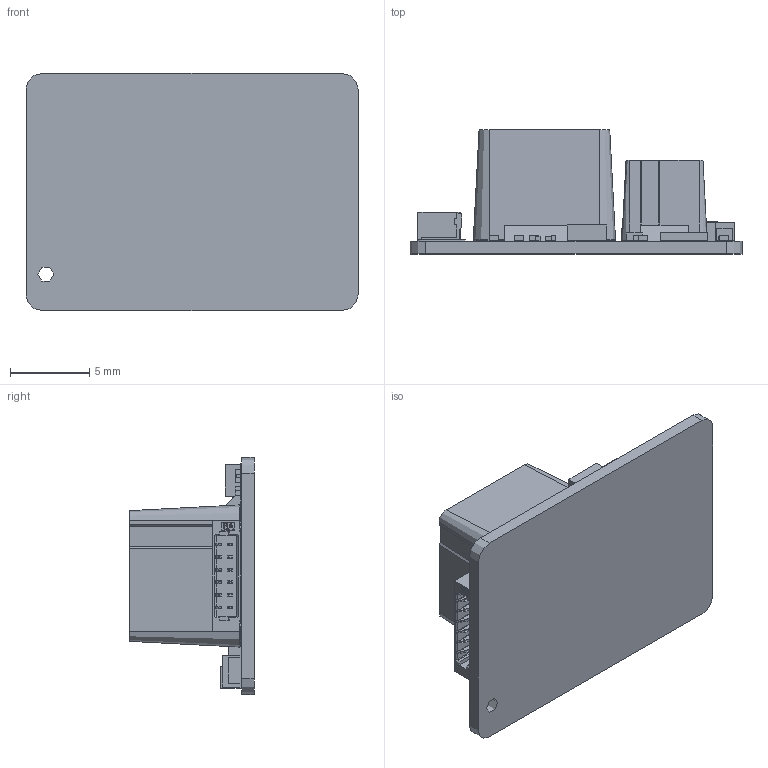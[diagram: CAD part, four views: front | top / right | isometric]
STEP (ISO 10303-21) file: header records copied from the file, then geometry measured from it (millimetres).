
FILE_DESCRIPTION(/* description */ (''),/* implementation_level */ '2;1');
FILE_NAME(/* name */ 'SDAM',/* time_stamp */ '2025-01-07T09:02:18+08:00',/* author */ (''),/* organization */ (''),/* preprocessor_version */ 'ST-DEVELOPER v19.2',/* originating_system */ 'Rhino 8.5',/* authorisation */ '');
FILE_SCHEMA (('CONFIG_CONTROL_DESIGN'));
Length unit declared in the file: millimetre
Products named in the file (63): Document; A; 图块 02; HX-M0012A_20230701; TX-HX-M0012A-SPEC_20230701; HX-F0012B-SPEC_20230925; 图块 12; RX-HX-F0012B-V1-20230925; DT011B_V1-F-3-936; DESIGNROOTMODEL; SUBMODEL-R0201_1901968038_PART_; SUBMODEL-NOMODELFORPART_R0201_1; PLACEMENTOUTLINE-412; SUBMODEL-C0402_154205460_PART_C; SUBMODEL-NOMODELFORPART_C0402_1; PLACEMENTOUTLINE-504; SUBMODEL-DSN1006_839817178_PART; SUBMODEL-NOMODELFORPART_DSN1006; PLACEMENTOUTLINE-552; SUBMODEL-R0603_2273621581_PART_; SUBMODEL-NOMODELFORPART_R0603_2; PLACEMENTOUTLINE-574; SUBMODEL-C0603_1266250096_PART_; SUBMODEL-NOMODELFORPART_C0603_1; PLACEMENTOUTLINE-632; SUBMODEL-C0201_1098283478_PART_; SUBMODEL-NOMODELFORPART_C0201_1; PLACEMENTOUTLINE-684; SUBMODEL-R0402_3530301750_PART_; SUBMODEL-NOMODELFORPART_R0402_3; PLACEMENTOUTLINE-708; SUBMODEL-SOD323_3695382124_-738; SUBMODEL-NOMODELFORPART_SOD323_; PLACEMENTOUTLINE-732; SUBMODEL-C0805_1592969947_PART_; SUBMODEL-NOMODELFORPART_C0805_1; PLACEMENTOUTLINE-762; SUBMODEL-PY32F030F28U6TR_504252; SUBMODEL-NOMODELFORPART_PY32F03; PLACEMENTOUTLINE-786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
Bounding box: 21 x 7.87 x 15 mm (x, y, z)
Volume: 759.8 mm3; surface area: 2001.3 mm2
Topology: 55 solids, 55 shells, 1324 faces, 5581 edges, 3229 vertices
Faces by surface type: plane 954, cylinder 264, bspline 106
Entity records: 55696 total; most frequent: CARTESIAN_POINT 19897, ORIENTED_EDGE 6512, DIRECTION 4482, EDGE_CURVE 3256, B_SPLINE_CURVE_WITH_KNOTS 3028, AXIS2_PLACEMENT_3D 2184, VERTEX_POINT 2129, EDGE_LOOP 1211
